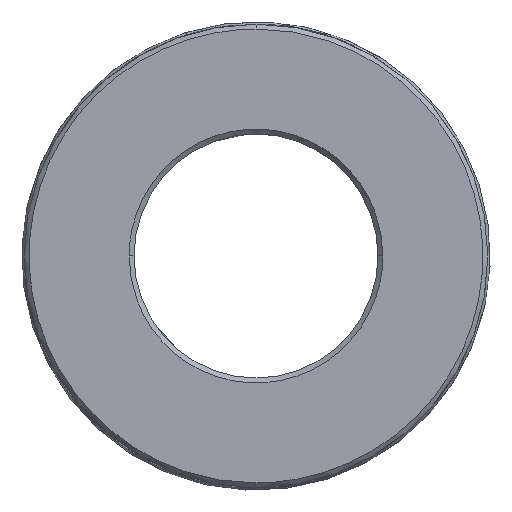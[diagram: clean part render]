
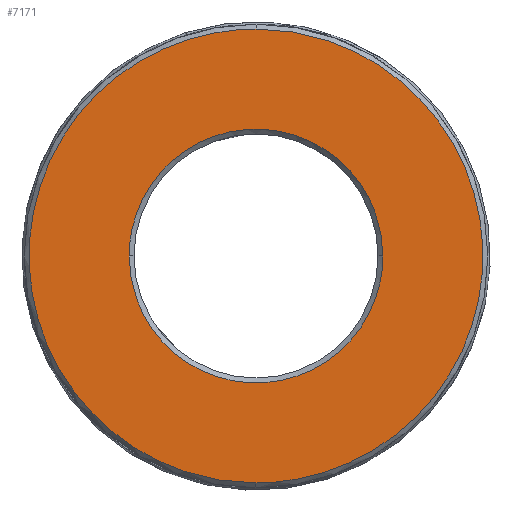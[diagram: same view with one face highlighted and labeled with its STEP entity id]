
A CAD part, left-side view. The second image highlights one B-rep face of the part: STEP entity #7171.
In plain terms, the highlighted planar face has unit normal (-1, 0, 0).
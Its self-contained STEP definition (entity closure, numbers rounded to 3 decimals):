
#229 = CARTESIAN_POINT ( 'NONE',  ( -28.207, 8.659, -6.377 ) ) ;
#441 = CARTESIAN_POINT ( 'NONE',  ( -28.207, 6.594, 6.293 ) ) ;
#949 = DIRECTION ( 'NONE',  ( 1., 0., 0. ) ) ;
#1175 = EDGE_CURVE ( 'NONE', #24695, #5786, #8840, .T. ) ;
#1296 = CARTESIAN_POINT ( 'NONE',  ( -28.207, -5.325, 0.532 ) ) ;
#1387 = CARTESIAN_POINT ( 'NONE',  ( -28.207, -3.462, -3.966 ) ) ;
#1570 = CARTESIAN_POINT ( 'NONE',  ( -28.207, 3.975, -7.551 ) ) ;
#1957 = CARTESIAN_POINT ( 'NONE',  ( -28.207, -1.225, 1.749 ) ) ;
#1976 = CARTESIAN_POINT ( 'NONE',  ( -28.207, 2.614, 6.814 ) ) ;
#2017 = CARTESIAN_POINT ( 'NONE',  ( -28.207, 11.412, 7.464 ) ) ;
#2186 = CARTESIAN_POINT ( 'NONE',  ( -28.207, 11.412, -3.966 ) ) ;
#2376 = CARTESIAN_POINT ( 'NONE',  ( -28.207, 13.033, -0.685 ) ) ;
#2422 = VERTEX_POINT ( 'NONE', #9434 ) ;
#2804 = DIRECTION ( 'NONE',  ( 0., 1., 0. ) ) ;
#3376 = EDGE_CURVE ( 'NONE', #2422, #12539, #10938, .T. ) ;
#3406 = CARTESIAN_POINT ( 'NONE',  ( -28.207, -4.151, -2.934 ) ) ;
#3494 = CARTESIAN_POINT ( 'NONE',  ( -28.207, -1.225, 1.749 ) ) ;
#4191 = CARTESIAN_POINT ( 'NONE',  ( -28.207, -1.225, 2.43 ) ) ;
#4256 = CARTESIAN_POINT ( 'NONE',  ( -28.207, 9.04, 0.388 ) ) ;
#5540 = CARTESIAN_POINT ( 'NONE',  ( -28.207, 1.541, -7.309 ) ) ;
#5786 = VERTEX_POINT ( 'NONE', #22421 ) ;
#5806 = CARTESIAN_POINT ( 'NONE',  ( -28.207, -0.709, -6.377 ) ) ;
#6024 = CARTESIAN_POINT ( 'NONE',  ( -28.207, 4.656, -3.451 ) ) ;
#6259 = CARTESIAN_POINT ( 'NONE',  ( -28.207, 13.033, 4.183 ) ) ;
#6373 = CARTESIAN_POINT ( 'NONE',  ( -28.207, 8.133, -1.446 ) ) ;
#7171 = ADVANCED_FACE ( 'NONE', ( #14497, #26372 ), #19989, .F. ) ;
#7757 = CARTESIAN_POINT ( 'NONE',  ( -28.207, -5.083, 4.183 ) ) ;
#8137 = CARTESIAN_POINT ( 'NONE',  ( -28.207, -0.183, -1.446 ) ) ;
#8323 = CARTESIAN_POINT ( 'NONE',  ( -28.207, 3.294, -3.451 ) ) ;
#8494 = CARTESIAN_POINT ( 'NONE',  ( -28.207, 7.171, -2.409 ) ) ;
#8650 = CARTESIAN_POINT ( 'NONE',  ( -28.207, 6.409, -7.309 ) ) ;
#8741 = CARTESIAN_POINT ( 'NONE',  ( -28.207, 13.275, 2.967 ) ) ;
#8840 = B_SPLINE_CURVE_WITH_KNOTS ( 'NONE', 3,
 ( #21236, #27222, #8650, #229, #17072, #2186, #19103, #2376, #12528, #8741, #6259, #16718, #2017, #19010, #16809, #19193, #20960, #23193 ),
 .UNSPECIFIED., .F., .F.,
 ( 4, 2, 2, 2, 2, 2, 2, 2, 4 ),
 ( 0.215, 0.278, 0.34, 0.403, 0.465, 0.528, 0.59, 0.653, 0.715 ),
 .UNSPECIFIED. ) ;
#8941 = ORIENTED_EDGE ( 'NONE', *, *, #16448, .F. ) ;
#9311 = CARTESIAN_POINT ( 'NONE',  ( -28.207, 4.656, 6.949 ) ) ;
#9434 = CARTESIAN_POINT ( 'NONE',  ( -28.207, 9.175, 1.749 ) ) ;
#9683 = CARTESIAN_POINT ( 'NONE',  ( -28.207, 3.975, 11.049 ) ) ;
#9861 = CARTESIAN_POINT ( 'NONE',  ( -28.207, -4.151, 6.433 ) ) ;
#9954 = CARTESIAN_POINT ( 'NONE',  ( -28.207, 2.758, -7.551 ) ) ;
#10502 = CARTESIAN_POINT ( 'NONE',  ( -28.207, 0.779, -2.409 ) ) ;
#10938 = B_SPLINE_CURVE_WITH_KNOTS ( 'NONE', 3,
 ( #20816, #24973, #4256, #14807, #6373, #8494, #14622, #18860, #6024, #8323, #16575, #20730, #10502, #8137, #14453, #12466, #27163, #1957 ),
 .UNSPECIFIED., .F., .F.,
 ( 4, 2, 2, 2, 2, 2, 2, 2, 4 ),
 ( 0.535, 0.597, 0.66, 0.722, 0.785, 0.847, 0.91, 0.972, 1.035 ),
 .UNSPECIFIED. ) ;
#10958 = CARTESIAN_POINT ( 'NONE',  ( -28.207, 9.04, 3.11 ) ) ;
#11547 = AXIS2_PLACEMENT_3D ( 'NONE', #22047, #949, #2804 ) ;
#11988 = CARTESIAN_POINT ( 'NONE',  ( -28.207, -1.74, -5.688 ) ) ;
#12397 = CARTESIAN_POINT ( 'NONE',  ( -28.207, -0.569, 4.368 ) ) ;
#12466 = CARTESIAN_POINT ( 'NONE',  ( -28.207, -1.09, 0.388 ) ) ;
#12489 = CARTESIAN_POINT ( 'NONE',  ( -28.207, -1.09, 3.11 ) ) ;
#12507 = EDGE_CURVE ( 'NONE', #5786, #24695, #26483, .T. ) ;
#12528 = CARTESIAN_POINT ( 'NONE',  ( -28.207, 13.275, 0.532 ) ) ;
#12539 = VERTEX_POINT ( 'NONE', #3494 ) ;
#12659 = EDGE_LOOP ( 'NONE', ( #23645, #19651 ) ) ;
#13809 = CARTESIAN_POINT ( 'NONE',  ( -28.207, -0.709, 9.875 ) ) ;
#13961 = ORIENTED_EDGE ( 'NONE', *, *, #3376, .F. ) ;
#14153 = CARTESIAN_POINT ( 'NONE',  ( -28.207, -3.462, 7.464 ) ) ;
#14453 = CARTESIAN_POINT ( 'NONE',  ( -28.207, -0.569, -0.87 ) ) ;
#14474 = CARTESIAN_POINT ( 'NONE',  ( -28.207, 1.356, 6.293 ) ) ;
#14497 = FACE_BOUND ( 'NONE', #23500, .T. ) ;
#14622 = CARTESIAN_POINT ( 'NONE',  ( -28.207, 6.594, -2.794 ) ) ;
#14739 = CARTESIAN_POINT ( 'NONE',  ( -28.207, -1.225, 1.749 ) ) ;
#14807 = CARTESIAN_POINT ( 'NONE',  ( -28.207, 8.519, -0.87 ) ) ;
#15163 = CARTESIAN_POINT ( 'NONE',  ( -28.207, 3.294, 6.949 ) ) ;
#15342 = CARTESIAN_POINT ( 'NONE',  ( -28.207, 9.175, 1.749 ) ) ;
#15998 = CARTESIAN_POINT ( 'NONE',  ( -28.207, 1.541, 10.807 ) ) ;
#16179 = CARTESIAN_POINT ( 'NONE',  ( -28.207, -5.083, -0.685 ) ) ;
#16448 = EDGE_CURVE ( 'NONE', #12539, #2422, #23319, .T. ) ;
#16575 = CARTESIAN_POINT ( 'NONE',  ( -28.207, 2.614, -3.315 ) ) ;
#16718 = CARTESIAN_POINT ( 'NONE',  ( -28.207, 12.101, 6.433 ) ) ;
#16809 = CARTESIAN_POINT ( 'NONE',  ( -28.207, 8.659, 9.875 ) ) ;
#17072 = CARTESIAN_POINT ( 'NONE',  ( -28.207, 9.69, -5.688 ) ) ;
#17359 = CARTESIAN_POINT ( 'NONE',  ( -28.207, 5.336, 6.814 ) ) ;
#18032 = CARTESIAN_POINT ( 'NONE',  ( -28.207, -1.74, 9.186 ) ) ;
#18621 = CARTESIAN_POINT ( 'NONE',  ( -28.207, -0.183, 4.945 ) ) ;
#18860 = CARTESIAN_POINT ( 'NONE',  ( -28.207, 5.336, -3.315 ) ) ;
#19010 = CARTESIAN_POINT ( 'NONE',  ( -28.207, 9.69, 9.186 ) ) ;
#19103 = CARTESIAN_POINT ( 'NONE',  ( -28.207, 12.101, -2.934 ) ) ;
#19193 = CARTESIAN_POINT ( 'NONE',  ( -28.207, 6.409, 10.807 ) ) ;
#19392 = CARTESIAN_POINT ( 'NONE',  ( -28.207, 8.519, 4.368 ) ) ;
#19651 = ORIENTED_EDGE ( 'NONE', *, *, #12507, .F. ) ;
#19989 = PLANE ( 'NONE',  #11547 ) ;
#20730 = CARTESIAN_POINT ( 'NONE',  ( -28.207, 1.356, -2.794 ) ) ;
#20816 = CARTESIAN_POINT ( 'NONE',  ( -28.207, 9.175, 1.749 ) ) ;
#20960 = CARTESIAN_POINT ( 'NONE',  ( -28.207, 5.192, 11.049 ) ) ;
#21236 = CARTESIAN_POINT ( 'NONE',  ( -28.207, 3.975, -7.551 ) ) ;
#22047 = CARTESIAN_POINT ( 'NONE',  ( -28.207, 3.975, 1.749 ) ) ;
#22292 = CARTESIAN_POINT ( 'NONE',  ( -28.207, -5.325, 2.967 ) ) ;
#22421 = CARTESIAN_POINT ( 'NONE',  ( -28.207, 3.975, 11.049 ) ) ;
#22880 = CARTESIAN_POINT ( 'NONE',  ( -28.207, 0.779, 5.907 ) ) ;
#23193 = CARTESIAN_POINT ( 'NONE',  ( -28.207, 3.975, 11.049 ) ) ;
#23319 = B_SPLINE_CURVE_WITH_KNOTS ( 'NONE', 3,
 ( #14739, #4191, #12489, #12397, #18621, #22880, #14474, #1976, #15163, #9311, #17359, #441, #25776, #23666, #19392, #10958, #25681, #15342 ),
 .UNSPECIFIED., .F., .F.,
 ( 4, 2, 2, 2, 2, 2, 2, 2, 4 ),
 ( 0.035, 0.097, 0.16, 0.222, 0.285, 0.347, 0.41, 0.472, 0.535 ),
 .UNSPECIFIED. ) ;
#23500 = EDGE_LOOP ( 'NONE', ( #8941, #13961 ) ) ;
#23645 = ORIENTED_EDGE ( 'NONE', *, *, #1175, .F. ) ;
#23666 = CARTESIAN_POINT ( 'NONE',  ( -28.207, 8.133, 4.945 ) ) ;
#24695 = VERTEX_POINT ( 'NONE', #26098 ) ;
#24973 = CARTESIAN_POINT ( 'NONE',  ( -28.207, 9.175, 1.069 ) ) ;
#25681 = CARTESIAN_POINT ( 'NONE',  ( -28.207, 9.175, 2.43 ) ) ;
#25776 = CARTESIAN_POINT ( 'NONE',  ( -28.207, 7.171, 5.907 ) ) ;
#26098 = CARTESIAN_POINT ( 'NONE',  ( -28.207, 3.975, -7.551 ) ) ;
#26372 = FACE_OUTER_BOUND ( 'NONE', #12659, .T. ) ;
#26483 = B_SPLINE_CURVE_WITH_KNOTS ( 'NONE', 3,
 ( #9683, #26774, #15998, #13809, #18032, #14153, #9861, #7757, #22292, #1296, #16179, #3406, #1387, #11988, #5806, #5540, #9954, #1570 ),
 .UNSPECIFIED., .F., .F.,
 ( 4, 2, 2, 2, 2, 2, 2, 2, 4 ),
 ( 0.715, 0.778, 0.84, 0.903, 0.965, 1.028, 1.09, 1.153, 1.215 ),
 .UNSPECIFIED. ) ;
#26774 = CARTESIAN_POINT ( 'NONE',  ( -28.207, 2.758, 11.049 ) ) ;
#27163 = CARTESIAN_POINT ( 'NONE',  ( -28.207, -1.225, 1.069 ) ) ;
#27222 = CARTESIAN_POINT ( 'NONE',  ( -28.207, 5.192, -7.551 ) ) ;
